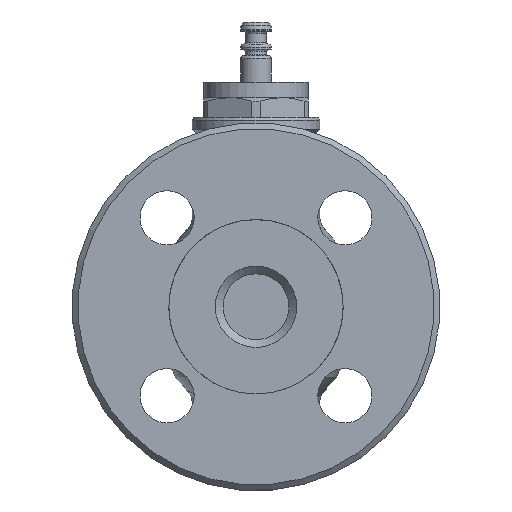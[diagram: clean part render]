
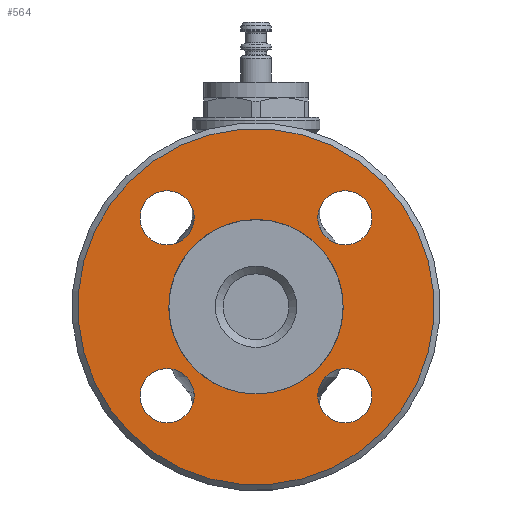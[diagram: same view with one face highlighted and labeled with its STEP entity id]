
A CAD part, left-side view. The second image highlights one B-rep face of the part: STEP entity #564.
In plain terms, the highlighted planar face has unit normal (-1, 0, 0).
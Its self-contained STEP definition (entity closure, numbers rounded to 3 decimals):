
#284=PLANE('',#2773);
#341=FACE_BOUND('',#908,.T.);
#342=FACE_BOUND('',#909,.T.);
#343=FACE_BOUND('',#910,.T.);
#344=FACE_BOUND('',#911,.T.);
#345=FACE_BOUND('',#912,.T.);
#346=FACE_BOUND('',#913,.T.);
#564=ADVANCED_FACE('',(#341,#342,#343,#344,#345,#346),#284,.T.);
#908=EDGE_LOOP('',(#1408));
#909=EDGE_LOOP('',(#1409));
#910=EDGE_LOOP('',(#1410));
#911=EDGE_LOOP('',(#1411));
#912=EDGE_LOOP('',(#1412));
#913=EDGE_LOOP('',(#1413));
#1225=CIRCLE('',#2767,46.);
#1226=CIRCLE('',#2768,22.5);
#1227=CIRCLE('',#2769,7.);
#1228=CIRCLE('',#2770,7.);
#1229=CIRCLE('',#2771,7.);
#1230=CIRCLE('',#2772,7.);
#1408=ORIENTED_EDGE('',*,*,#2322,.T.);
#1409=ORIENTED_EDGE('',*,*,#2323,.F.);
#1410=ORIENTED_EDGE('',*,*,#2324,.T.);
#1411=ORIENTED_EDGE('',*,*,#2325,.T.);
#1412=ORIENTED_EDGE('',*,*,#2326,.T.);
#1413=ORIENTED_EDGE('',*,*,#2327,.T.);
#2074=VERTEX_POINT('',#3901);
#2075=VERTEX_POINT('',#3903);
#2076=VERTEX_POINT('',#3905);
#2077=VERTEX_POINT('',#3907);
#2078=VERTEX_POINT('',#3909);
#2079=VERTEX_POINT('',#3911);
#2322=EDGE_CURVE('',#2074,#2074,#1225,.T.);
#2323=EDGE_CURVE('',#2075,#2075,#1226,.T.);
#2324=EDGE_CURVE('',#2076,#2076,#1227,.T.);
#2325=EDGE_CURVE('',#2077,#2077,#1228,.T.);
#2326=EDGE_CURVE('',#2078,#2078,#1229,.T.);
#2327=EDGE_CURVE('',#2079,#2079,#1230,.T.);
#2767=AXIS2_PLACEMENT_3D('',#3900,#3138,#3139);
#2768=AXIS2_PLACEMENT_3D('',#3902,#3140,#3141);
#2769=AXIS2_PLACEMENT_3D('',#3904,#3142,#3143);
#2770=AXIS2_PLACEMENT_3D('',#3906,#3144,#3145);
#2771=AXIS2_PLACEMENT_3D('',#3908,#3146,#3147);
#2772=AXIS2_PLACEMENT_3D('',#3910,#3148,#3149);
#2773=AXIS2_PLACEMENT_3D('',#3912,#3150,#3151);
#3138=DIRECTION('',(-1.,0.,0.));
#3139=DIRECTION('',(0.,0.707,0.707));
#3140=DIRECTION('',(-1.,0.,0.));
#3141=DIRECTION('',(0.,0.707,0.707));
#3142=DIRECTION('',(1.,0.,0.));
#3143=DIRECTION('',(0.,-0.707,0.707));
#3144=DIRECTION('',(1.,0.,0.));
#3145=DIRECTION('',(0.,0.707,0.707));
#3146=DIRECTION('',(1.,0.,0.));
#3147=DIRECTION('',(0.,0.707,-0.707));
#3148=DIRECTION('',(1.,0.,0.));
#3149=DIRECTION('',(0.,-0.707,-0.707));
#3150=DIRECTION('',(-1.,0.,0.));
#3151=DIRECTION('',(0.,0.707,0.707));
#3900=CARTESIAN_POINT('',(37.,0.,100.));
#3901=CARTESIAN_POINT('',(37.,32.527,132.527));
#3902=CARTESIAN_POINT('',(37.,0.,100.));
#3903=CARTESIAN_POINT('',(37.,15.91,115.91));
#3904=CARTESIAN_POINT('',(37.,22.981,122.981));
#3905=CARTESIAN_POINT('',(37.,18.031,127.931));
#3906=CARTESIAN_POINT('',(37.,22.981,77.019));
#3907=CARTESIAN_POINT('',(37.,27.931,81.969));
#3908=CARTESIAN_POINT('',(37.,-22.981,77.019));
#3909=CARTESIAN_POINT('',(37.,-18.031,72.069));
#3910=CARTESIAN_POINT('',(37.,-22.981,122.981));
#3911=CARTESIAN_POINT('',(37.,-27.931,118.031));
#3912=CARTESIAN_POINT('',(37.,0.,100.));
